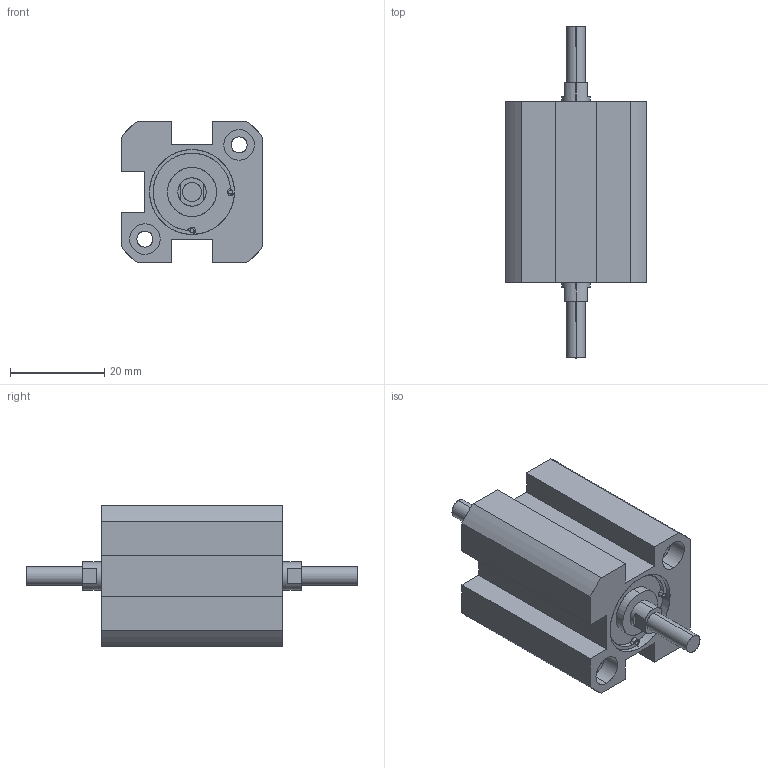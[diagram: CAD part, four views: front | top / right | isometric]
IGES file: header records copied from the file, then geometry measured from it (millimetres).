
Start section: SolidWorks IGES file using analytic representation for surfaces
Global section: file name: C:\Users\Toshiba\Desktop\XC#M7-16D-10.IGS; native system: SolidWorks 2014; preprocessor: SolidWorks 2014; author: Toshiba; date: 160523.165422; units: millimetre
Bounding box: 30 x 70.5 x 30 mm (x, y, z)
Surface area: 9066.3 mm2 (no closed solid volume)
Topology: 0 solids, 0 shells, 106 faces, 1752 edges, 1748 vertices
Faces by surface type: revolution 62, bspline 44
